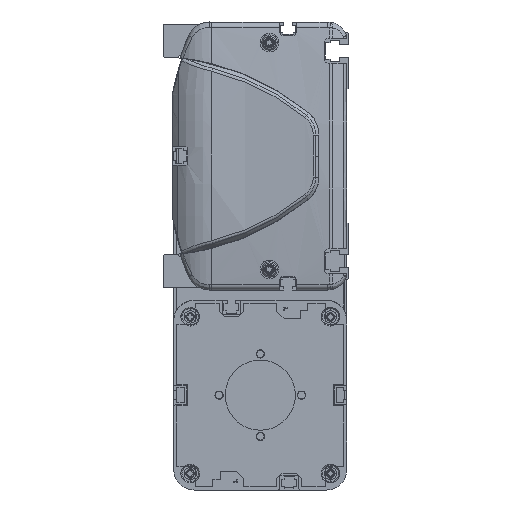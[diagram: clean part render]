
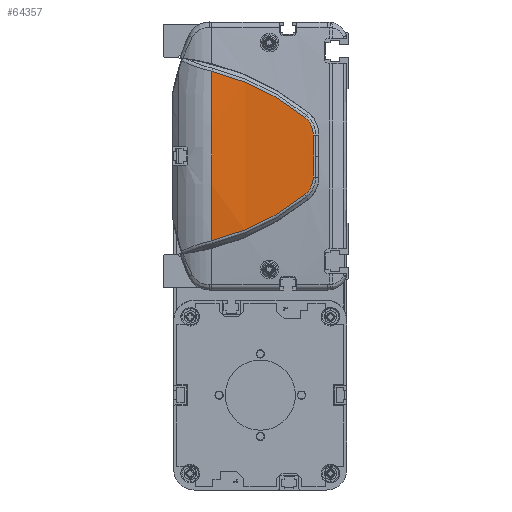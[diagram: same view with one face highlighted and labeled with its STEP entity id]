
A CAD part, left-side view. The second image highlights one B-rep face of the part: STEP entity #64357.
In plain terms, the highlighted cylindrical face has radius 500 mm (diameter 1000 mm), a partial arc.
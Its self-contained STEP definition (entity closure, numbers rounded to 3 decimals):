
#60598=CARTESIAN_POINT('',(-614.,66.962,0.));
#60599=DIRECTION('',(0.,-1.,0.));
#60600=DIRECTION('',(-0.997,0.,0.082));
#60601=AXIS2_PLACEMENT_3D('',#60598,#60599,#60600);
#61475=CARTESIAN_POINT('',(-1113.648,21.913,
-18.759));
#61476=CARTESIAN_POINT('',(-1113.449,28.504,
-24.058));
#61477=CARTESIAN_POINT('',(-1112.934,42.795,
-33.27));
#61478=CARTESIAN_POINT('',(-1112.471,58.756,
-39.127));
#61479=CARTESIAN_POINT('',(-1112.306,66.962,
-41.121));
#61481=CARTESIAN_POINT('',(-1112.306,66.962,
41.121));
#61482=CARTESIAN_POINT('',(-1112.471,58.756,
39.127));
#61483=CARTESIAN_POINT('',(-1112.934,42.795,
33.27));
#61484=CARTESIAN_POINT('',(-1113.449,28.504,
24.058));
#61485=CARTESIAN_POINT('',(-1113.648,21.913,
18.759));
#61487=CARTESIAN_POINT('',(-1113.648,21.913,
18.759));
#61488=CARTESIAN_POINT('',(-1113.686,20.635,
17.736));
#61489=CARTESIAN_POINT('',(-1113.779,18.536,
15.107));
#61490=CARTESIAN_POINT('',(-1113.863,17.752,
11.827));
#61491=CARTESIAN_POINT('',(-1113.896,17.724,
10.178));
#61493=CARTESIAN_POINT('',(-1113.896,17.724,
10.178));
#61494=CARTESIAN_POINT('',(-1113.92,17.707,
9.025));
#61495=CARTESIAN_POINT('',(-1113.959,17.667,
6.734));
#61496=CARTESIAN_POINT('',(-1113.993,17.58,
3.34));
#61497=CARTESIAN_POINT('',(-1114.,17.498,
1.108));
#61498=CARTESIAN_POINT('',(-1114.,17.449,
0.));
#61500=CARTESIAN_POINT('',(-1114.,17.449,
0.));
#61501=CARTESIAN_POINT('',(-1114.,17.498,
-1.108));
#61502=CARTESIAN_POINT('',(-1113.993,17.58,
-3.34));
#61503=CARTESIAN_POINT('',(-1113.959,17.667,
-6.733));
#61504=CARTESIAN_POINT('',(-1113.92,17.707,
-9.027));
#61505=CARTESIAN_POINT('',(-1113.896,17.724,
-10.18));
#61507=CARTESIAN_POINT('',(-1113.896,17.724,
-10.18));
#61508=CARTESIAN_POINT('',(-1113.863,17.752,
-11.828));
#61509=CARTESIAN_POINT('',(-1113.779,18.537,
-15.109));
#61510=CARTESIAN_POINT('',(-1113.686,20.635,
-17.736));
#61511=CARTESIAN_POINT('',(-1113.648,21.913,
-18.759));
#62177=VERTEX_POINT('',#61475);
#62178=VERTEX_POINT('',#61479);
#62179=CARTESIAN_POINT('',(-1112.306,66.962,
41.121));
#62180=VERTEX_POINT('',#62179);
#62181=VERTEX_POINT('',#61485);
#62182=VERTEX_POINT('',#61491);
#62183=VERTEX_POINT('',#61498);
#62184=VERTEX_POINT('',#61505);
#64338=CARTESIAN_POINT('',(-614.,8.606,0.));
#64339=DIRECTION('',(0.,1.,0.));
#64340=DIRECTION('',(1.,0.,0.));
#64341=AXIS2_PLACEMENT_3D('',#64338,#64339,#64340);
#64342=CYLINDRICAL_SURFACE('',#64341,500.);
#64344=ORIENTED_EDGE('',*,*,#64343,.T.);
#64345=ORIENTED_EDGE('',*,*,#62978,.F.);
#64347=ORIENTED_EDGE('',*,*,#64346,.T.);
#64349=ORIENTED_EDGE('',*,*,#64348,.T.);
#64351=ORIENTED_EDGE('',*,*,#64350,.T.);
#64353=ORIENTED_EDGE('',*,*,#64352,.T.);
#64354=ORIENTED_EDGE('',*,*,#64328,.T.);
#64355=EDGE_LOOP('',(#64344,#64345,#64347,#64349,#64351,#64353,#64354));
#64356=FACE_OUTER_BOUND('',#64355,.F.);
#64357=ADVANCED_FACE('',(#64356),#64342,.T.);
#60602=CIRCLE('',#60601,500.);
#61480=B_SPLINE_CURVE_WITH_KNOTS('',3,(#61475,#61476,#61477,#61478,#61479),
.UNSPECIFIED.,.F.,.F.,(4,1,4),(0.,0.5,1.),.UNSPECIFIED.);
#61486=B_SPLINE_CURVE_WITH_KNOTS('',3,(#61481,#61482,#61483,#61484,#61485),
.UNSPECIFIED.,.F.,.F.,(4,1,4),(0.,0.5,1.),.UNSPECIFIED.);
#61492=B_SPLINE_CURVE_WITH_KNOTS('',3,(#61487,#61488,#61489,#61490,#61491),
.UNSPECIFIED.,.F.,.F.,(4,1,4),(0.,0.5,1.),.UNSPECIFIED.);
#61499=B_SPLINE_CURVE_WITH_KNOTS('',3,(#61493,#61494,#61495,#61496,#61497,
#61498),.UNSPECIFIED.,.F.,.F.,(4,1,1,4),(0.,0.333,
0.667,1.),.UNSPECIFIED.);
#61506=B_SPLINE_CURVE_WITH_KNOTS('',3,(#61500,#61501,#61502,#61503,#61504,
#61505),.UNSPECIFIED.,.F.,.F.,(4,1,1,4),(0.,0.333,
0.667,1.),.UNSPECIFIED.);
#61512=B_SPLINE_CURVE_WITH_KNOTS('',3,(#61507,#61508,#61509,#61510,#61511),
.UNSPECIFIED.,.F.,.F.,(4,1,4),(0.,0.5,1.),.UNSPECIFIED.);
#62978=EDGE_CURVE('',#62180,#62178,#60602,.T.);
#64328=EDGE_CURVE('',#62184,#62177,#61512,.T.);
#64343=EDGE_CURVE('',#62177,#62178,#61480,.T.);
#64346=EDGE_CURVE('',#62180,#62181,#61486,.T.);
#64348=EDGE_CURVE('',#62181,#62182,#61492,.T.);
#64350=EDGE_CURVE('',#62182,#62183,#61499,.T.);
#64352=EDGE_CURVE('',#62183,#62184,#61506,.T.);
